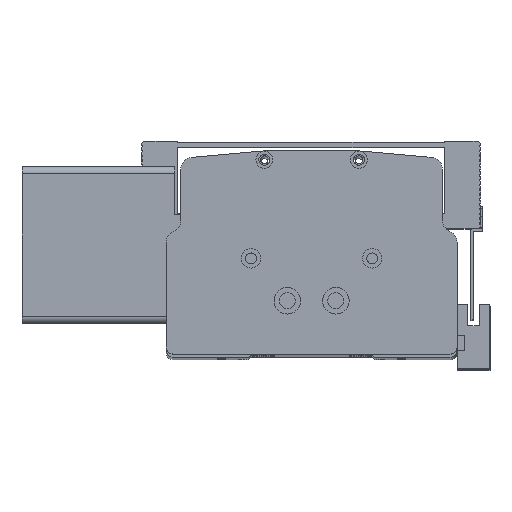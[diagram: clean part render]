
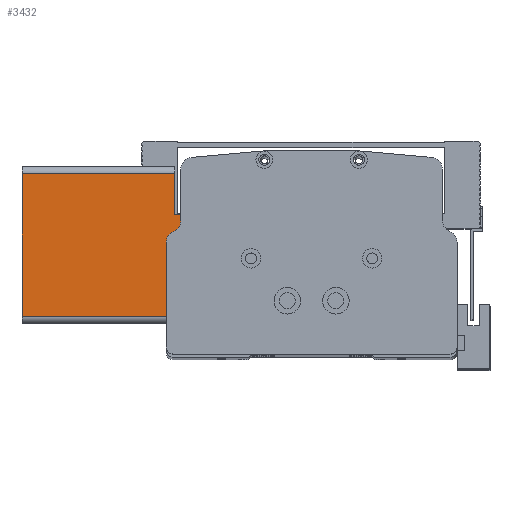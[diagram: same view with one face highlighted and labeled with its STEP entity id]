
A CAD part, top view. The second image highlights one B-rep face of the part: STEP entity #3432.
In plain terms, the highlighted planar face has unit normal (0, 0, 1) as drawn and (-1, 0, 0) by its records, which use the part's own axes.
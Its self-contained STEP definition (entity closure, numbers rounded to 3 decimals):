
#1457 = VERTEX_POINT ( 'NONE', #84055 ) ;
#2194 = CARTESIAN_POINT ( 'NONE',  ( 0., 62., 87. ) ) ;
#2937 = VECTOR ( 'NONE', #131860, 1000. ) ;
#3432 = ADVANCED_FACE ( 'NONE', ( #57371 ), #67704, .F. ) ;
#3800 = ORIENTED_EDGE ( 'NONE', *, *, #15245, .F. ) ;
#4565 = DIRECTION ( 'NONE',  ( 1., 0., 0. ) ) ;
#8655 = VECTOR ( 'NONE', #131507, 1000. ) ;
#9575 = EDGE_CURVE ( 'NONE', #114494, #1457, #130202, .T. ) ;
#10691 = LINE ( 'NONE', #37001, #91445 ) ;
#15245 = EDGE_CURVE ( 'NONE', #30682, #62771, #93619, .T. ) ;
#18823 = DIRECTION ( 'NONE',  ( 0., 0., -1. ) ) ;
#27863 = ORIENTED_EDGE ( 'NONE', *, *, #9575, .F. ) ;
#27927 = VECTOR ( 'NONE', #53247, 1000. ) ;
#28059 = EDGE_CURVE ( 'NONE', #1457, #30682, #112044, .T. ) ;
#30682 = VERTEX_POINT ( 'NONE', #136093 ) ;
#31033 = LINE ( 'NONE', #89334, #2937 ) ;
#34732 = CARTESIAN_POINT ( 'NONE',  ( 0., 62., 87. ) ) ;
#37001 = CARTESIAN_POINT ( 'NONE',  ( 0., 3., 87. ) ) ;
#40878 = VECTOR ( 'NONE', #120694, 1000. ) ;
#45670 = VERTEX_POINT ( 'NONE', #101841 ) ;
#46118 = CARTESIAN_POINT ( 'NONE',  ( 0., 0., 87. ) ) ;
#53247 = DIRECTION ( 'NONE',  ( 0., 0., 1. ) ) ;
#54302 = EDGE_LOOP ( 'NONE', ( #91009, #27863, #65665, #62346, #100720, #113001, #133029, #3800 ) ) ;
#56284 = VERTEX_POINT ( 'NONE', #34732 ) ;
#57371 = FACE_OUTER_BOUND ( 'NONE', #54302, .T. ) ;
#57438 = CARTESIAN_POINT ( 'NONE',  ( 0., 80.26, 73. ) ) ;
#61742 = VERTEX_POINT ( 'NONE', #93359 ) ;
#62346 = ORIENTED_EDGE ( 'NONE', *, *, #128604, .T. ) ;
#62771 = VERTEX_POINT ( 'NONE', #67115 ) ;
#64188 = VECTOR ( 'NONE', #18823, 1000. ) ;
#65665 = ORIENTED_EDGE ( 'NONE', *, *, #98087, .T. ) ;
#67115 = CARTESIAN_POINT ( 'NONE',  ( 0., 62., 73. ) ) ;
#67704 = PLANE ( 'NONE',  #136685 ) ;
#73963 = VECTOR ( 'NONE', #80129, 1000. ) ;
#75964 = DIRECTION ( 'NONE',  ( 0., 0., -1. ) ) ;
#76326 = EDGE_CURVE ( 'NONE', #56284, #62771, #131147, .T. ) ;
#78332 = DIRECTION ( 'NONE',  ( 0., 0., -1. ) ) ;
#80129 = DIRECTION ( 'NONE',  ( 0., -1., 0. ) ) ;
#84055 = CARTESIAN_POINT ( 'NONE',  ( 0., 45., 63. ) ) ;
#89334 = CARTESIAN_POINT ( 'NONE',  ( 0., 0., 0. ) ) ;
#89410 = LINE ( 'NONE', #110228, #8655 ) ;
#90268 = CARTESIAN_POINT ( 'NONE',  ( 0., 80.26, 63. ) ) ;
#91009 = ORIENTED_EDGE ( 'NONE', *, *, #28059, .F. ) ;
#91445 = VECTOR ( 'NONE', #110766, 1000. ) ;
#91935 = CARTESIAN_POINT ( 'NONE',  ( 0., 62., 0. ) ) ;
#93359 = CARTESIAN_POINT ( 'NONE',  ( 0., 3., 0. ) ) ;
#93619 = LINE ( 'NONE', #57438, #40878 ) ;
#98087 = EDGE_CURVE ( 'NONE', #114494, #124556, #123758, .T. ) ;
#100720 = ORIENTED_EDGE ( 'NONE', *, *, #113527, .T. ) ;
#101841 = CARTESIAN_POINT ( 'NONE',  ( 0., 3., 87. ) ) ;
#107372 = EDGE_CURVE ( 'NONE', #56284, #45670, #89410, .T. ) ;
#110228 = CARTESIAN_POINT ( 'NONE',  ( 0., 0., 87. ) ) ;
#110766 = DIRECTION ( 'NONE',  ( 0., 0., 1. ) ) ;
#112044 = LINE ( 'NONE', #127101, #27927 ) ;
#113001 = ORIENTED_EDGE ( 'NONE', *, *, #107372, .F. ) ;
#113527 = EDGE_CURVE ( 'NONE', #61742, #45670, #10691, .T. ) ;
#114494 = VERTEX_POINT ( 'NONE', #128591 ) ;
#120694 = DIRECTION ( 'NONE',  ( 0., 1., 0. ) ) ;
#123758 = LINE ( 'NONE', #135037, #64188 ) ;
#124556 = VERTEX_POINT ( 'NONE', #91935 ) ;
#127101 = CARTESIAN_POINT ( 'NONE',  ( 0., 45., 63. ) ) ;
#128591 = CARTESIAN_POINT ( 'NONE',  ( 0., 62., 63. ) ) ;
#128604 = EDGE_CURVE ( 'NONE', #124556, #61742, #31033, .T. ) ;
#130202 = LINE ( 'NONE', #90268, #73963 ) ;
#131147 = LINE ( 'NONE', #2194, #134469 ) ;
#131507 = DIRECTION ( 'NONE',  ( 0., -1., 0. ) ) ;
#131860 = DIRECTION ( 'NONE',  ( 0., -1., 0. ) ) ;
#133029 = ORIENTED_EDGE ( 'NONE', *, *, #76326, .T. ) ;
#134469 = VECTOR ( 'NONE', #75964, 1000. ) ;
#135037 = CARTESIAN_POINT ( 'NONE',  ( 0., 62., 87. ) ) ;
#136093 = CARTESIAN_POINT ( 'NONE',  ( 0., 45., 73. ) ) ;
#136685 = AXIS2_PLACEMENT_3D ( 'NONE', #46118, #4565, #78332 ) ;
